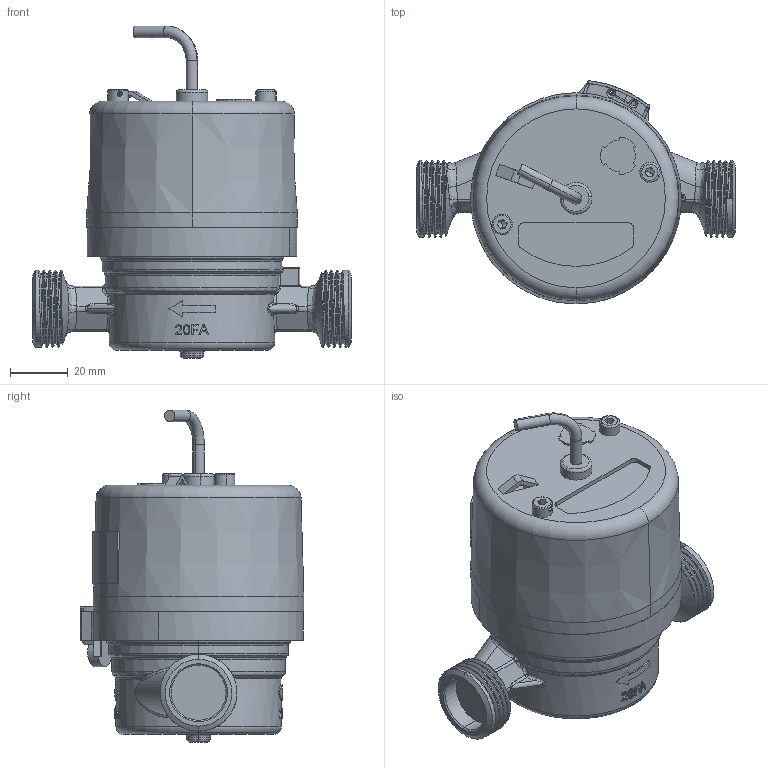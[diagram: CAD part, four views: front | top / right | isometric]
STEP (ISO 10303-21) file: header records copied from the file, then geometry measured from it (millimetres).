
FILE_DESCRIPTION (( 'STEP AP214' ), '1' );
FILE_NAME ('JS90-0,6-NC.STEP', '2025-08-01T06:58:22', ( '' ), ( '' ), 'SwSTEP 2.0', 'SolidWorks 2019', '' );
FILE_SCHEMA (( 'AUTOMOTIVE_DESIGN' ));
Length unit declared in the file: millimetre
Products named in the file (1): JS90-0,6-NC
Bounding box: 110 x 77.23 x 114.6 mm (x, y, z)
Volume: 257122.6 mm3; surface area: 86300.7 mm2
Topology: 7 solids, 17 shells, 1146 faces, 3150 edges, 2003 vertices
Faces by surface type: plane 507, cylinder 333, bspline 140, cone 87, torus 71, sphere 8
Entity records: 57268 total; most frequent: CARTESIAN_POINT 16240, ORIENTED_EDGE 6268, DIRECTION 5759, EDGE_CURVE 3134, AXIS2_PLACEMENT_3D 2129, VERTEX_POINT 2003, LINE 1501, VECTOR 1501
